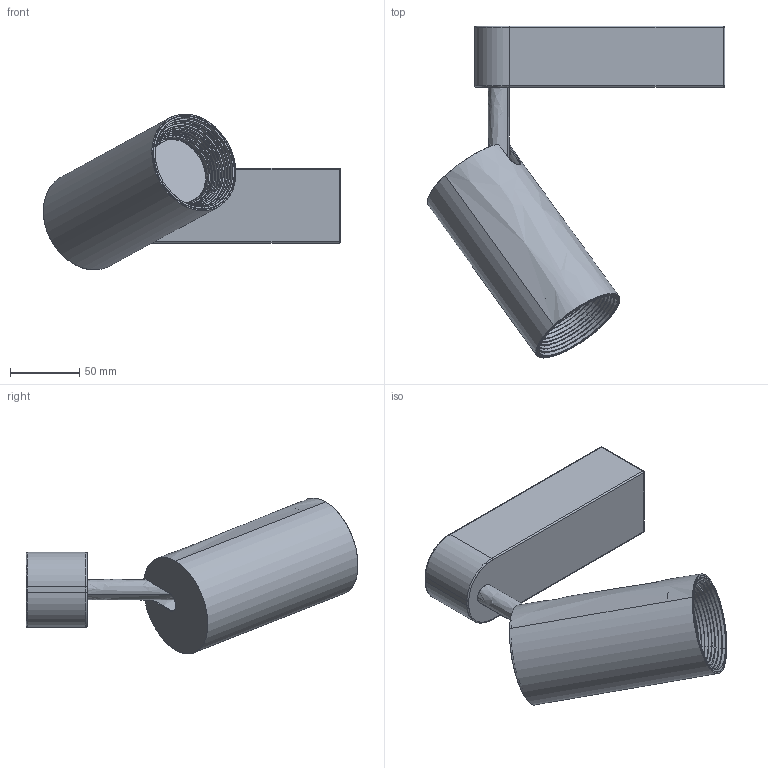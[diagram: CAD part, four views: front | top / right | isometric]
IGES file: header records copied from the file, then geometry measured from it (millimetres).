
Start section: SolidWorks IGES file using analytic representation for surfaces
Global section: file name: Z:\Modele 3D_WWW\_KOLEKCJE_WWW\PROFILE SYSTEM\PROFILE-IRIS-LED-30W-9008-9009-9010-9011\PROFILE-IRIS-LED-30W-9008-9009-9010-9011.IGS; native system: SolidWorks 2020; preprocessor: SolidWorks 2020; author: gabriela.tworek; date: 210304.074526; units: millimetre
Bounding box: 214.05 x 238.95 x 112.14 mm (x, y, z)
Surface area: 136570.6 mm2 (no closed solid volume)
Topology: 0 solids, 0 shells, 96 faces, 2519 edges, 2515 vertices
Faces by surface type: revolution 50, bspline 46
